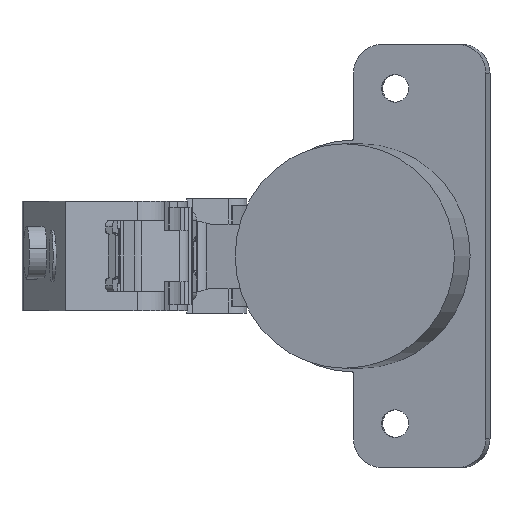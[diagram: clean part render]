
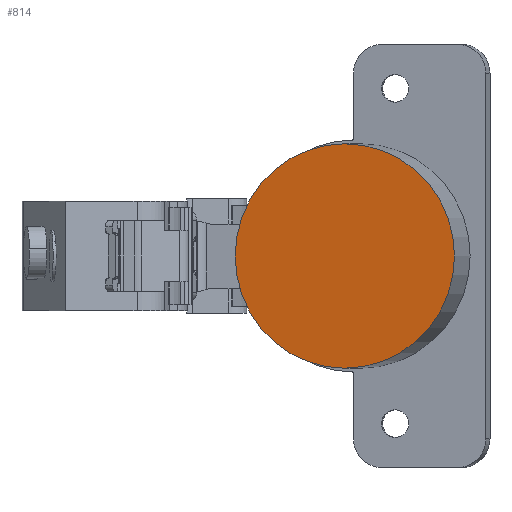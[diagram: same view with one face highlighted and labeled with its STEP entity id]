
A CAD part, left-side view. The second image highlights one B-rep face of the part: STEP entity #814.
In plain terms, the highlighted planar face has unit normal (-0.977, 0.211, 0).
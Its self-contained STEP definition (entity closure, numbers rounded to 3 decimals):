
#49 = CIRCLE ( 'NONE', #7784, 17.4 ) ;
#395 = DIRECTION ( 'NONE',  ( -0.977, 0.212, 0. ) ) ;
#449 = DIRECTION ( 'NONE',  ( 0., 0., 1. ) ) ;
#717 = CARTESIAN_POINT ( 'NONE',  ( 24.229, -7.978, -17.4 ) ) ;
#814 = ADVANCED_FACE ( 'NONE', ( #3971 ), #6283, .F. ) ;
#1276 = CARTESIAN_POINT ( 'NONE',  ( 21.909, -18.696, -7.7 ) ) ;
#1779 = CIRCLE ( 'NONE', #7755, 17.4 ) ;
#2230 = EDGE_CURVE ( 'NONE', #5399, #5971, #1779, .T. ) ;
#2510 = AXIS2_PLACEMENT_3D ( 'NONE', #1276, #6494, #449 ) ;
#3869 = ORIENTED_EDGE ( 'NONE', *, *, #10332, .T. ) ;
#3971 = FACE_OUTER_BOUND ( 'NONE', #5157, .T. ) ;
#4323 = CARTESIAN_POINT ( 'NONE',  ( 24.229, -7.978, 0. ) ) ;
#5080 = DIRECTION ( 'NONE',  ( -0.212, -0.977, 0. ) ) ;
#5157 = EDGE_LOOP ( 'NONE', ( #3869, #8784 ) ) ;
#5399 = VERTEX_POINT ( 'NONE', #717 ) ;
#5971 = VERTEX_POINT ( 'NONE', #7085 ) ;
#6238 = CARTESIAN_POINT ( 'NONE',  ( 24.229, -7.978, 0. ) ) ;
#6283 = PLANE ( 'NONE',  #2510 ) ;
#6494 = DIRECTION ( 'NONE',  ( 0.977, -0.212, 0. ) ) ;
#7085 = CARTESIAN_POINT ( 'NONE',  ( 24.229, -7.978, 17.4 ) ) ;
#7755 = AXIS2_PLACEMENT_3D ( 'NONE', #4323, #10081, #9303 ) ;
#7784 = AXIS2_PLACEMENT_3D ( 'NONE', #6238, #395, #5080 ) ;
#8784 = ORIENTED_EDGE ( 'NONE', *, *, #2230, .T. ) ;
#9303 = DIRECTION ( 'NONE',  ( -0.212, -0.977, 0. ) ) ;
#10081 = DIRECTION ( 'NONE',  ( -0.977, 0.212, 0. ) ) ;
#10332 = EDGE_CURVE ( 'NONE', #5971, #5399, #49, .T. ) ;
